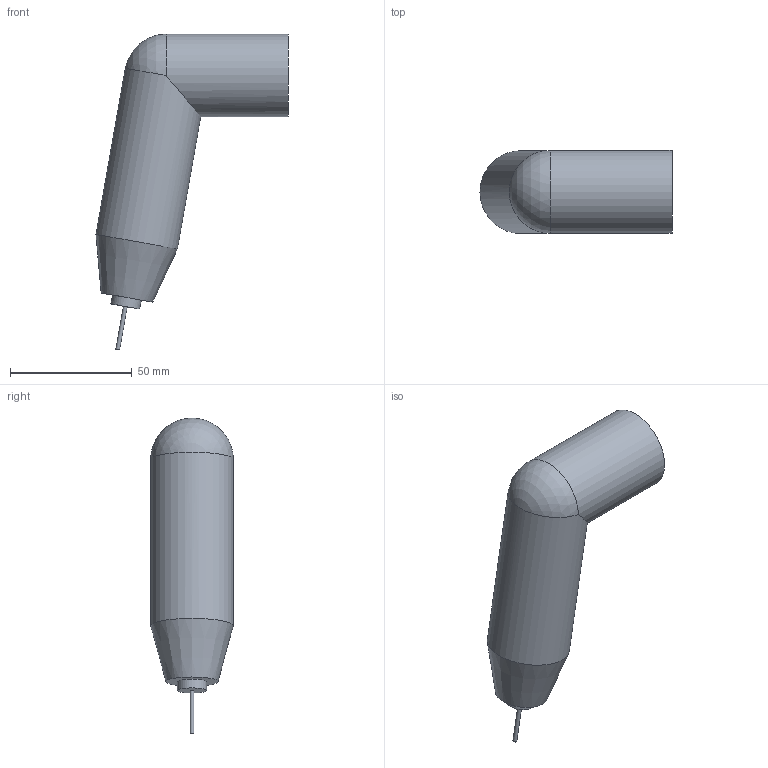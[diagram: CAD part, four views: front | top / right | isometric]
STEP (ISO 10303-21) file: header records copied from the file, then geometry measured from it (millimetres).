
FILE_DESCRIPTION( ( 'Unknown' ), '1' );
FILE_NAME( 'E:/Zeichnungen/Projekte/3d schweissen/Schweissbrenner_Typ_3_winkel_10.stp', 'Unknown', ( 'Unknown' ), ( 'Unknown' ), 'PSStep 13.0', 'Unknown', ' ' );
FILE_SCHEMA( ( 'AUTOMOTIVE_DESIGN { 1 0 10303 214 1 1 1 1 }' ) );
Length unit declared in the file: millimetre
Products named in the file (1): 1
Bounding box: 78.92 x 34 x 129.8 mm (x, y, z)
Volume: 122365.8 mm3; surface area: 16207 mm2
Topology: 1 solids, 1 shells, 10 faces, 17 edges, 11 vertices
Faces by surface type: plane 4, cylinder 4, sphere 1, cone 1
Full cylindrical faces by diameter (mm): 1.6 x1, 12 x1, 34 x2
Entity records: 296 total; most frequent: DIRECTION 42, CARTESIAN_POINT 30, AXIS2_PLACEMENT_3D 21, ORIENTED_EDGE 20, EDGE_LOOP 17, FACE_OUTER_BOUND 14, STYLED_ITEM 10, PRESENTATION_STYLE_ASSIGNMENT 10
